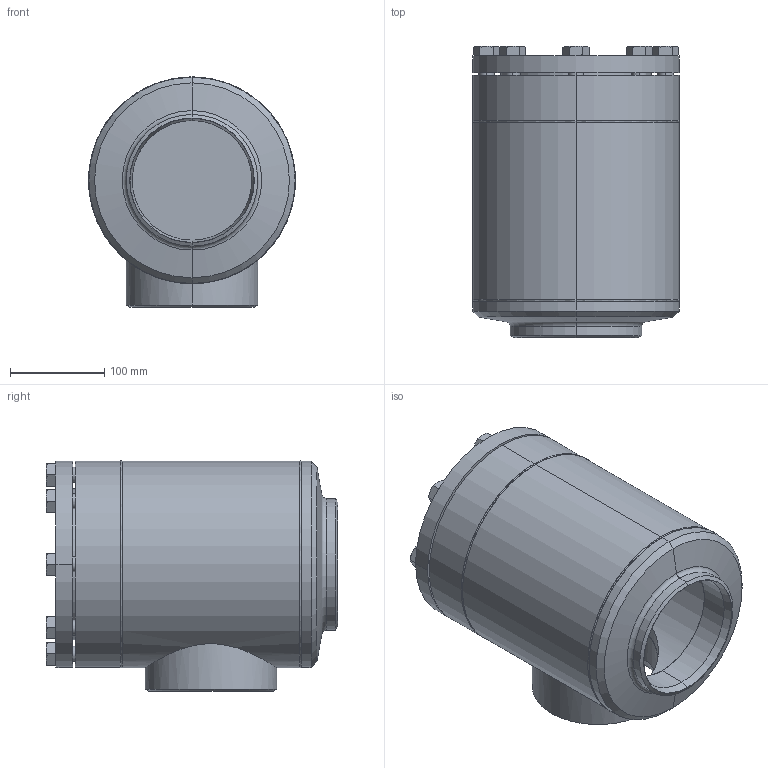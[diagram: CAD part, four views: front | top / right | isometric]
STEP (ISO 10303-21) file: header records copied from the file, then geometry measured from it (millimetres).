
FILE_DESCRIPTION (( 'STEP AP214' ), '1' );
FILE_NAME ('SS52400D20A5A0AA00_DN125_R1_PS40.STEP', '2010-06-16T12:51:58', ( 'Eckhard Grams' ), ( 'AWP Kälte Klima Armaturen GmbH' ), 'SwSTEP 2.0', 'SolidWorks 2002296', '' );
FILE_SCHEMA (( 'AUTOMOTIVE_DESIGN' ));
Length unit declared in the file: millimetre
Products named in the file (11): SS52400D20A5A0AA00_DN125_R1_PS40; Geh,kpl 16300E20-5030AA1_DN125_R1_Standard; Rohrstutzen-A16300a-20_R1_Standard; Kopfstück16300-DN125_Standard; Boden16300-DN125_Standard; Gehäuse16300-DN125_Standard; bead Geh,kpl 16400-20-2_Standard; bead Geh,kpl 16400-20-1_Standard; SS52300E20_Deck+Schr-DN125_Standard; Deckel52300E20-DN125_Standard; Sechskantschraube-DIN933_M16x 45
Assembly tree (17 placements, depth 3):
  SS52400D20A5A0AA00_DN125_R1_PS40
    SS52300E20_Deck+Schr-DN125_Standard
      Sechskantschraube-DIN933_M16x 45  x8
      Deckel52300E20-DN125_Standard
    Geh,kpl 16300E20-5030AA1_DN125_R1_Standard
      Kopfstück16300-DN125_Standard
      Boden16300-DN125_Standard
      bead Geh,kpl 16400-20-2_Standard
      bead Geh,kpl 16400-20-1_Standard
      Rohrstutzen-A16300a-20_R1_Standard
      Gehäuse16300-DN125_Standard
Bounding box: 219.51 x 309 x 244.28 mm (x, y, z)
Volume: 4057284.4 mm3; surface area: 680254.6 mm2
Topology: 15 solids, 15 shells, 285 faces, 610 edges, 364 vertices
Faces by surface type: cone 124, plane 90, cylinder 61, bspline 8, torus 2
Entity records: 5353 total; most frequent: CARTESIAN_POINT 2204, DIRECTION 546, ORIENTED_EDGE 492, EDGE_CURVE 246, AXIS2_PLACEMENT_3D 238, VERTEX_POINT 154, EDGE_LOOP 142, CIRCLE 114
